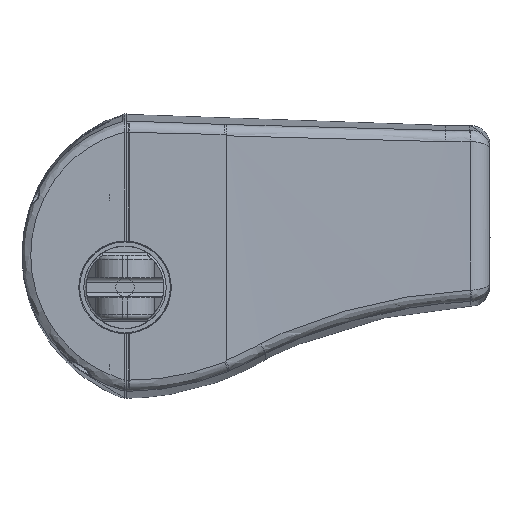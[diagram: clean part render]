
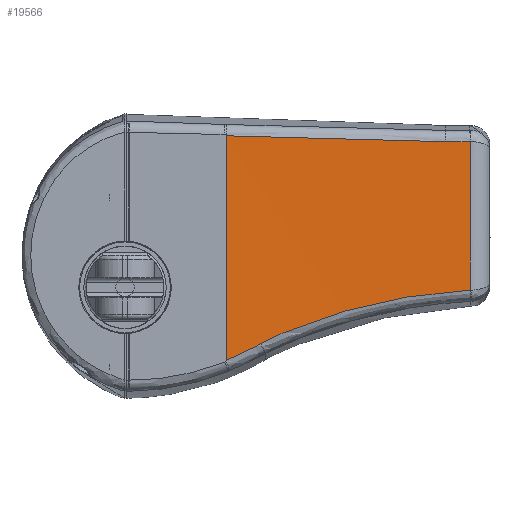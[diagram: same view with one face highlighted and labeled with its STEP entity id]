
A CAD part, front view. The second image highlights one B-rep face of the part: STEP entity #19566.
In plain terms, the highlighted cylindrical face has radius 2881.45 mm (diameter 5762.89 mm), a partial arc.
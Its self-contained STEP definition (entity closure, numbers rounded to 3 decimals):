
#5511=CARTESIAN_POINT('',(39.811,-3.005,
-41.156));
#5512=CARTESIAN_POINT('',(39.798,-3.006,
-41.163));
#5513=CARTESIAN_POINT('',(39.684,-3.012,
-41.202));
#5514=CARTESIAN_POINT('',(31.485,-3.518,
-45.426));
#5515=CARTESIAN_POINT('',(27.143,-3.8,
-47.163));
#5517=DIRECTION('',(0.,0.,1.));
#5518=VECTOR('',#5517,97.955);
#5519=CARTESIAN_POINT('',(27.143,-3.8,
-47.163));
#5520=LINE('',#5519,#5518);
#5521=CARTESIAN_POINT('',(27.146,-3.8,50.792));
#5522=CARTESIAN_POINT('',(27.143,-3.8,50.797));
#5523=CARTESIAN_POINT('',(27.14,-3.8,50.822));
#5524=CARTESIAN_POINT('',(27.138,-3.801,50.862));
#5525=CARTESIAN_POINT('',(27.158,-3.799,50.88));
#5526=CARTESIAN_POINT('',(27.172,-3.799,50.886));
#5528=CARTESIAN_POINT('',(27.172,-3.799,50.886));
#5529=CARTESIAN_POINT('',(59.048,-1.727,50.14));
#5530=CARTESIAN_POINT('',(90.956,-0.185,
49.27));
#5531=CARTESIAN_POINT('',(122.879,0.826,48.309));
#5533=DIRECTION('',(0.001,0.,-1.));
#5534=VECTOR('',#5533,64.843);
#5535=CARTESIAN_POINT('',(133.738,1.149,48.359));
#5536=LINE('',#5535,#5534);
#5537=CARTESIAN_POINT('',(133.79,1.15,-16.483));
#5538=CARTESIAN_POINT('',(124.393,0.889,
-16.962));
#5539=CARTESIAN_POINT('',(105.846,0.28,
-18.995));
#5540=CARTESIAN_POINT('',(83.249,-0.678,
-24.134));
#5541=CARTESIAN_POINT('',(67.745,-1.443,
-29.097));
#5542=CARTESIAN_POINT('',(58.964,-1.906,
-32.334));
#5543=CARTESIAN_POINT('',(54.609,-2.146,
-34.089));
#5544=CARTESIAN_POINT('',(52.437,-2.268,
-35.));
#5546=CARTESIAN_POINT('',(52.437,-2.268,
-35.));
#5547=CARTESIAN_POINT('',(51.598,-2.315,
-35.35));
#5548=CARTESIAN_POINT('',(49.987,-2.406,
-36.033));
#5549=CARTESIAN_POINT('',(47.727,-2.536,
-37.027));
#5550=CARTESIAN_POINT('',(45.629,-2.658,
-37.963));
#5551=CARTESIAN_POINT('',(43.745,-2.769,
-38.947));
#5552=CARTESIAN_POINT('',(42.595,-2.837,
-39.572));
#5553=CARTESIAN_POINT('',(42.049,-2.87,
-39.882));
#5555=CARTESIAN_POINT('',(42.049,-2.87,
-39.882));
#5556=CARTESIAN_POINT('',(42.033,-2.871,
-39.891));
#5557=CARTESIAN_POINT('',(41.986,-2.874,
-39.92));
#5558=CARTESIAN_POINT('',(41.874,-2.88,
-39.984));
#5559=CARTESIAN_POINT('',(41.652,-2.894,
-40.113));
#5560=CARTESIAN_POINT('',(40.966,-2.935,
-40.507));
#5561=CARTESIAN_POINT('',(40.312,-2.974,
-40.879));
#5562=CARTESIAN_POINT('',(39.811,-3.005,
-41.156));
#5608=CARTESIAN_POINT('',(133.738,1.149,48.359));
#5609=CARTESIAN_POINT('',(130.118,1.048,48.344));
#5610=CARTESIAN_POINT('',(126.498,0.94,48.327));
#5611=CARTESIAN_POINT('',(122.879,0.826,48.309));
#6004=CARTESIAN_POINT('',(27.172,-3.799,50.886));
#9603=VERTEX_POINT('',#6004);
#9604=VERTEX_POINT('',#5521);
#9605=CARTESIAN_POINT('',(27.143,-3.8,
-47.163));
#9606=VERTEX_POINT('',#9605);
#9693=VERTEX_POINT('',#5511);
#9694=VERTEX_POINT('',#5555);
#9695=VERTEX_POINT('',#5531);
#9696=VERTEX_POINT('',#5608);
#9697=CARTESIAN_POINT('',(133.79,1.15,-16.483));
#9698=VERTEX_POINT('',#9697);
#9699=VERTEX_POINT('',#5544);
#19545=CARTESIAN_POINT('',(214.057,-2879.178,
52.851));
#19546=DIRECTION('',(0.,0.,-1.));
#19547=DIRECTION('',(1.,0.,0.));
#19548=AXIS2_PLACEMENT_3D('',#19545,#19546,#19547);
#19549=CYLINDRICAL_SURFACE('',#19548,2881.446);
#19550=ORIENTED_EDGE('',*,*,#19445,.T.);
#19551=ORIENTED_EDGE('',*,*,#16585,.T.);
#19552=ORIENTED_EDGE('',*,*,#16583,.T.);
#19554=ORIENTED_EDGE('',*,*,#19553,.T.);
#19556=ORIENTED_EDGE('',*,*,#19555,.F.);
#19558=ORIENTED_EDGE('',*,*,#19557,.T.);
#19560=ORIENTED_EDGE('',*,*,#19559,.T.);
#19562=ORIENTED_EDGE('',*,*,#19561,.T.);
#19563=ORIENTED_EDGE('',*,*,#19447,.T.);
#19564=EDGE_LOOP('',(#19550,#19551,#19552,#19554,#19556,#19558,#19560,#19562,
#19563));
#19565=FACE_OUTER_BOUND('',#19564,.F.);
#19566=ADVANCED_FACE('',(#19565),#19549,.F.);
#5516=B_SPLINE_CURVE_WITH_KNOTS('',3,(#5511,#5512,#5513,#5514,#5515),
.UNSPECIFIED.,.F.,.F.,(4,1,4),(0.,0.003,1.),.UNSPECIFIED.);
#5527=B_SPLINE_CURVE_WITH_KNOTS('',3,(#5521,#5522,#5523,#5524,#5525,#5526),
.UNSPECIFIED.,.F.,.F.,(4,1,1,4),(0.,0.333,0.667,1.),
.UNSPECIFIED.);
#5532=B_SPLINE_CURVE_WITH_KNOTS('',3,(#5528,#5529,#5530,#5531),.UNSPECIFIED.,
.F.,.F.,(4,4),(0.,1.),.UNSPECIFIED.);
#5545=B_SPLINE_CURVE_WITH_KNOTS('',3,(#5537,#5538,#5539,#5540,#5541,#5542,#5543,
#5544),.UNSPECIFIED.,.F.,.F.,(4,1,1,1,1,4),(0.,0.333,
0.667,0.833,0.916,1.),.UNSPECIFIED.);
#5554=B_SPLINE_CURVE_WITH_KNOTS('',3,(#5546,#5547,#5548,#5549,#5550,#5551,#5552,
#5553),.UNSPECIFIED.,.F.,.F.,(4,1,1,1,1,4),(0.,0.2,0.4,0.6,0.8,1.),
.UNSPECIFIED.);
#5563=B_SPLINE_CURVE_WITH_KNOTS('',3,(#5555,#5556,#5557,#5558,#5559,#5560,#5561,
#5562),.UNSPECIFIED.,.F.,.F.,(4,1,1,1,1,4),(0.,0.022,
0.065,0.152,0.325,1.),.UNSPECIFIED.);
#5612=B_SPLINE_CURVE_WITH_KNOTS('',3,(#5608,#5609,#5610,#5611),.UNSPECIFIED.,
.F.,.F.,(4,4),(0.,1.),.UNSPECIFIED.);
#16583=EDGE_CURVE('',#9604,#9603,#5527,.T.);
#16585=EDGE_CURVE('',#9606,#9604,#5520,.T.);
#19445=EDGE_CURVE('',#9693,#9606,#5516,.T.);
#19447=EDGE_CURVE('',#9694,#9693,#5563,.T.);
#19553=EDGE_CURVE('',#9603,#9695,#5532,.T.);
#19555=EDGE_CURVE('',#9696,#9695,#5612,.T.);
#19557=EDGE_CURVE('',#9696,#9698,#5536,.T.);
#19559=EDGE_CURVE('',#9698,#9699,#5545,.T.);
#19561=EDGE_CURVE('',#9699,#9694,#5554,.T.);
